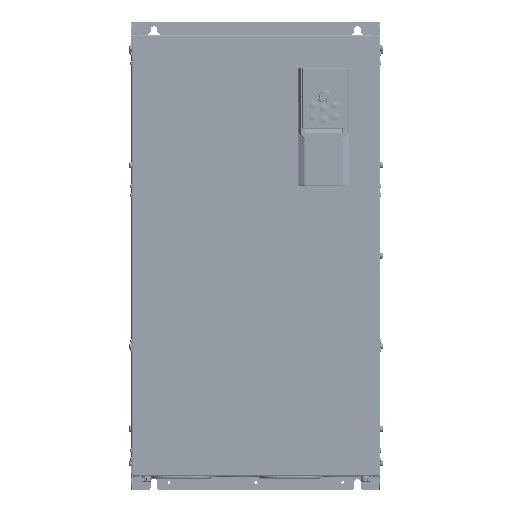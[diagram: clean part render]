
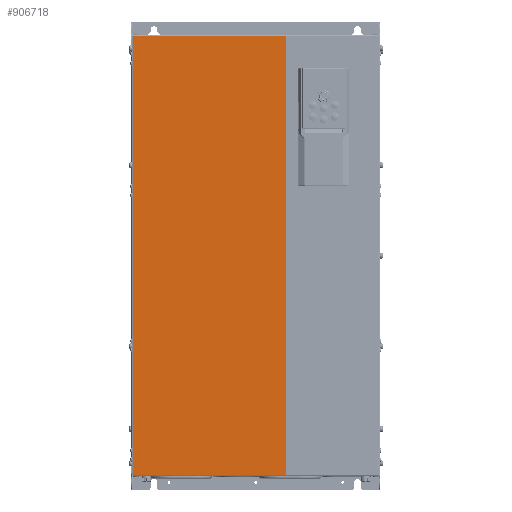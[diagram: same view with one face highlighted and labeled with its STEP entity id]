
A CAD part, top view. The second image highlights one B-rep face of the part: STEP entity #906718.
In plain terms, the highlighted planar face has unit normal (0, 0, 1).
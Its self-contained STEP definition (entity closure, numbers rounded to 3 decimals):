
#903790=DIRECTION('',(0.,1.,0.));
#903791=VECTOR('',#903790,581.);
#903792=CARTESIAN_POINT('',(-163.,-0.5,140.));
#903793=LINE('',#903792,#903791);
#904980=DIRECTION('',(0.,-1.,0.));
#904981=VECTOR('',#904980,581.);
#904982=CARTESIAN_POINT('',(40.,580.5,140.));
#904983=LINE('',#904982,#904981);
#904987=DIRECTION('',(-1.,0.,0.));
#904988=VECTOR('',#904987,203.);
#904989=CARTESIAN_POINT('',(40.,-0.5,140.));
#904990=LINE('',#904989,#904988);
#904994=DIRECTION('',(-1.,0.,0.));
#904995=VECTOR('',#904994,203.);
#904996=CARTESIAN_POINT('',(40.,580.5,140.));
#904997=LINE('',#904996,#904995);
#905117=CARTESIAN_POINT('',(40.,580.5,140.));
#905118=CARTESIAN_POINT('',(40.,-0.5,140.));
#905119=VERTEX_POINT('',#905117);
#905120=VERTEX_POINT('',#905118);
#905277=CARTESIAN_POINT('',(-163.,580.5,140.));
#905278=VERTEX_POINT('',#905277);
#905282=CARTESIAN_POINT('',(-163.,-0.5,140.));
#905284=VERTEX_POINT('',#905282);
#906707=CARTESIAN_POINT('',(-164.5,582.,140.));
#906708=DIRECTION('',(0.,0.,1.));
#906709=DIRECTION('',(0.,-1.,0.));
#906710=AXIS2_PLACEMENT_3D('',#906707,#906708,#906709);
#906711=PLANE('',#906710);
#906712=ORIENTED_EDGE('',*,*,#906699,.T.);
#906713=ORIENTED_EDGE('',*,*,#906630,.T.);
#906714=ORIENTED_EDGE('',*,*,#905681,.T.);
#906715=ORIENTED_EDGE('',*,*,#906682,.F.);
#906716=EDGE_LOOP('',(#906712,#906713,#906714,#906715));
#906717=FACE_OUTER_BOUND('',#906716,.F.);
#906718=ADVANCED_FACE('',(#906717),#906711,.T.);
#905681=EDGE_CURVE('',#905284,#905278,#903793,.T.);
#906630=EDGE_CURVE('',#905120,#905284,#904990,.T.);
#906682=EDGE_CURVE('',#905119,#905278,#904997,.T.);
#906699=EDGE_CURVE('',#905119,#905120,#904983,.T.);
